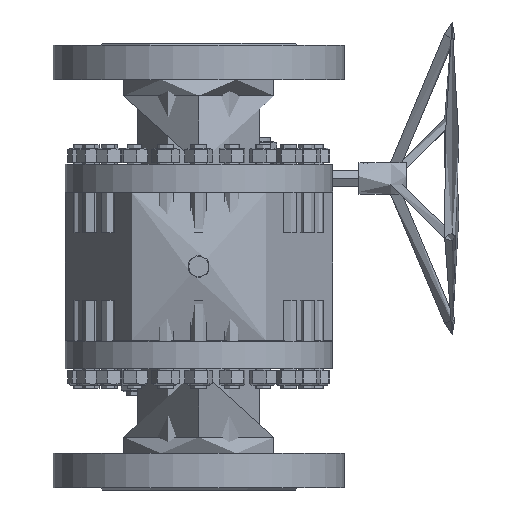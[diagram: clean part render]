
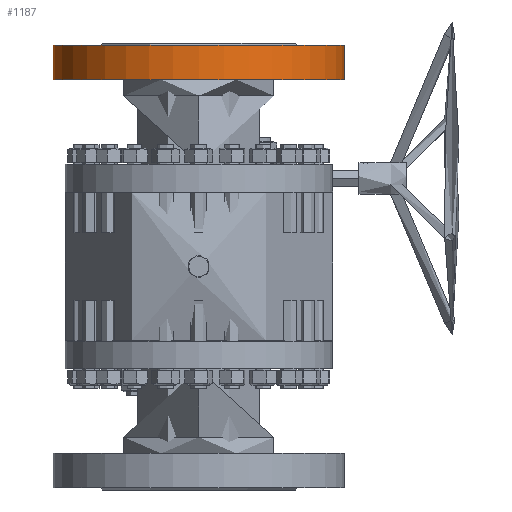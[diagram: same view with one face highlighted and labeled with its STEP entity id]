
A CAD part, front view. The second image highlights one B-rep face of the part: STEP entity #1187.
In plain terms, the highlighted cylindrical face has radius 215 mm (diameter 430 mm), a partial arc.
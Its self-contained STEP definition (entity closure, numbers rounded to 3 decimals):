
#1187=ADVANCED_FACE('',(#4686),#4688,.T.);
#4686=FACE_OUTER_BOUND('',#4687,.T.);
#4687=EDGE_LOOP('',(#21010,#21011,#21012,#21013));
#4688=CYLINDRICAL_SURFACE('',#4689,215.);
#4689=AXIS2_PLACEMENT_3D('',#4690,#4691,#4692);
#4690=CARTESIAN_POINT('',(0.,0.,276.));
#4691=DIRECTION('',(0.,0.,1.));
#4692=DIRECTION('',(1.,0.,0.));
#21010=ORIENTED_EDGE('',*,*,#27329,.F.);
#21011=ORIENTED_EDGE('',*,*,#27302,.T.);
#21012=ORIENTED_EDGE('',*,*,#27330,.T.);
#21013=ORIENTED_EDGE('',*,*,#27272,.F.);
#27272=EDGE_CURVE('',#31228,#31227,#31230,.T.);
#27302=EDGE_CURVE('',#31286,#31285,#31288,.T.);
#27329=EDGE_CURVE('',#31286,#31228,#31317,.T.);
#27330=EDGE_CURVE('',#31285,#31227,#31318,.T.);
#31227=VERTEX_POINT('',#38909);
#31228=VERTEX_POINT('',#38910);
#31230=CIRCLE('',#38915,215.);
#31285=VERTEX_POINT('',#39055);
#31286=VERTEX_POINT('',#39056);
#31288=CIRCLE('',#39061,215.);
#31317=LINE('',#39147,#39148);
#31318=LINE('',#39150,#39151);
#38909=CARTESIAN_POINT('',(215.,0.,327.));
#38910=CARTESIAN_POINT('',(-215.,0.,327.));
#38915=AXIS2_PLACEMENT_3D('',#38916,#38917,#38918);
#38916=CARTESIAN_POINT('',(0.,0.,327.));
#38917=DIRECTION('',(0.,0.,1.));
#38918=DIRECTION('',(-1.,0.,0.));
#39055=CARTESIAN_POINT('',(215.,0.,276.));
#39056=CARTESIAN_POINT('',(-215.,0.,276.));
#39061=AXIS2_PLACEMENT_3D('',#39062,#39063,#39064);
#39062=CARTESIAN_POINT('',(0.,0.,276.));
#39063=DIRECTION('',(0.,0.,1.));
#39064=DIRECTION('',(-1.,0.,0.));
#39147=CARTESIAN_POINT('',(-215.,0.,276.));
#39148=VECTOR('',#39149,1.);
#39149=DIRECTION('',(0.,0.,1.));
#39150=CARTESIAN_POINT('',(215.,0.,276.));
#39151=VECTOR('',#39152,1.);
#39152=DIRECTION('',(0.,0.,1.));
